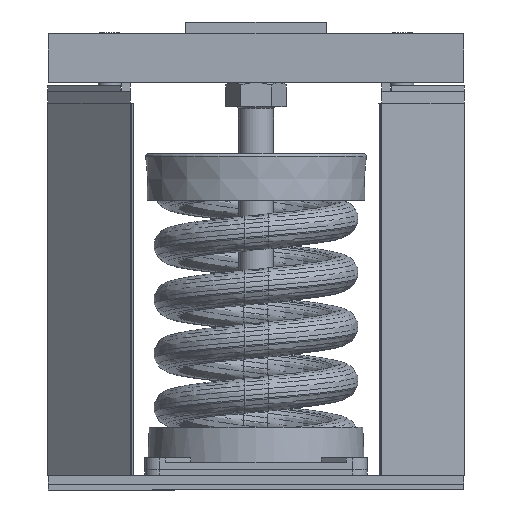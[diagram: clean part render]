
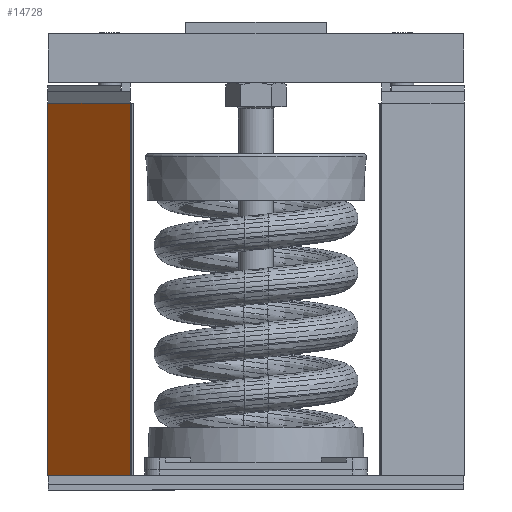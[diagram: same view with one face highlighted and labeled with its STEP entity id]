
A CAD part, front view. The second image highlights one B-rep face of the part: STEP entity #14728.
In plain terms, the highlighted planar face has unit normal (-0.707, -0.707, 0).
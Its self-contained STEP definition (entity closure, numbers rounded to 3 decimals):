
#1932=LINE('',#18958,#2486);
#1934=LINE('',#18962,#2488);
#1935=LINE('',#18964,#2489);
#1936=LINE('',#18965,#2490);
#2486=VECTOR('',#16718,15.91);
#2488=VECTOR('',#16722,5.);
#2489=VECTOR('',#16723,15.91);
#2490=VECTOR('',#16724,5.);
#3024=PLANE('',#15802);
#3517=FACE_OUTER_BOUND('',#4564,.T.);
#4564=EDGE_LOOP('',(#9454,#9455,#9456,#9457));
#6057=VERTEX_POINT('',#18955);
#6058=VERTEX_POINT('',#18957);
#6059=VERTEX_POINT('',#18961);
#6060=VERTEX_POINT('',#18963);
#7305=EDGE_CURVE('',#6058,#6057,#1932,.T.);
#7307=EDGE_CURVE('',#6057,#6059,#1934,.T.);
#7308=EDGE_CURVE('',#6060,#6059,#1935,.T.);
#7309=EDGE_CURVE('',#6058,#6060,#1936,.T.);
#9454=ORIENTED_EDGE('',*,*,#7307,.T.);
#9455=ORIENTED_EDGE('',*,*,#7308,.F.);
#9456=ORIENTED_EDGE('',*,*,#7309,.F.);
#9457=ORIENTED_EDGE('',*,*,#7305,.T.);
#14728=ADVANCED_FACE('',(#3517),#3024,.T.);
#15802=AXIS2_PLACEMENT_3D('',#18960,#16720,#16721);
#16718=DIRECTION('',(0.,0.,1.));
#16720=DIRECTION('center_axis',(-0.707,-0.707,0.));
#16721=DIRECTION('ref_axis',(0.,0.,-1.));
#16722=DIRECTION('',(-0.707,0.707,0.));
#16723=DIRECTION('',(0.,0.,1.));
#16724=DIRECTION('',(-0.707,0.707,0.));
#18955=CARTESIAN_POINT('',(-5.366,-3.536,16.535));
#18957=CARTESIAN_POINT('',(-5.366,-3.536,0.625));
#18958=CARTESIAN_POINT('',(-5.366,-3.536,0.625));
#18960=CARTESIAN_POINT('Origin',(-5.366,-3.536,0.625));
#18961=CARTESIAN_POINT('',(-8.902,0.,16.535));
#18962=CARTESIAN_POINT('',(-6.25,-2.652,16.535));
#18963=CARTESIAN_POINT('',(-8.902,0.,0.625));
#18964=CARTESIAN_POINT('',(-8.902,0.,0.625));
#18965=CARTESIAN_POINT('',(-6.25,-2.652,0.625));
